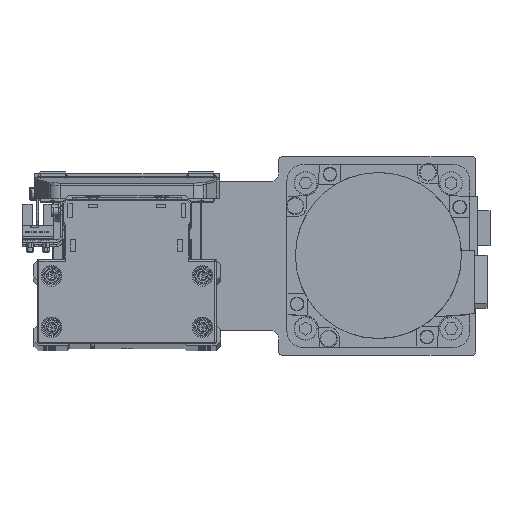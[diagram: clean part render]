
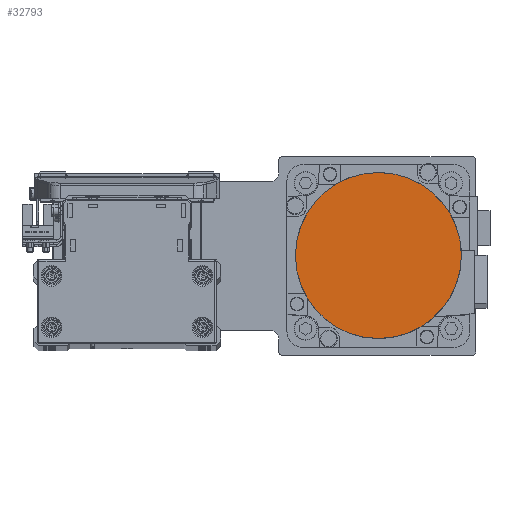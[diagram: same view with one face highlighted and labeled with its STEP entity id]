
A CAD part, top view. The second image highlights one B-rep face of the part: STEP entity #32793.
In plain terms, the highlighted planar face has unit normal (0, 0, 1) as drawn and (0, 0, -1) by its records, which use the part's own axes.
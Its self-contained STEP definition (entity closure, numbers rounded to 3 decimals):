
#2759 = CIRCLE ( 'NONE', #25611, 36.3 ) ;
#5710 = ORIENTED_EDGE ( 'NONE', *, *, #29768, .F. ) ;
#5948 = DIRECTION ( 'NONE',  ( 0., -1., 0. ) ) ;
#6263 = DIRECTION ( 'NONE',  ( 0., 0., 1. ) ) ;
#7689 = CIRCLE ( 'NONE', #30521, 36.3 ) ;
#9493 = CARTESIAN_POINT ( 'NONE',  ( 0., 0., -122.2 ) ) ;
#9739 = CARTESIAN_POINT ( 'NONE',  ( 0., -36.3, -122.2 ) ) ;
#13464 = EDGE_LOOP ( 'NONE', ( #40080, #5710 ) ) ;
#18721 = DIRECTION ( 'NONE',  ( 0., 1., 0. ) ) ;
#20165 = AXIS2_PLACEMENT_3D ( 'NONE', #9493, #21952, #34427 ) ;
#21470 = CARTESIAN_POINT ( 'NONE',  ( 0., 0., -122.2 ) ) ;
#21952 = DIRECTION ( 'NONE',  ( 0., 0., 1. ) ) ;
#22002 = VERTEX_POINT ( 'NONE', #34451 ) ;
#25029 = FACE_OUTER_BOUND ( 'NONE', #13464, .T. ) ;
#25611 = AXIS2_PLACEMENT_3D ( 'NONE', #21470, #33940, #5948 ) ;
#27285 = EDGE_CURVE ( 'NONE', #22002, #34205, #7689, .T. ) ;
#29768 = EDGE_CURVE ( 'NONE', #34205, #22002, #2759, .T. ) ;
#30521 = AXIS2_PLACEMENT_3D ( 'NONE', #34255, #6263, #18721 ) ;
#32793 = ADVANCED_FACE ( 'NONE', ( #25029 ), #37500, .F. ) ;
#33940 = DIRECTION ( 'NONE',  ( 0., 0., 1. ) ) ;
#34205 = VERTEX_POINT ( 'NONE', #9739 ) ;
#34255 = CARTESIAN_POINT ( 'NONE',  ( 0., 0., -122.2 ) ) ;
#34427 = DIRECTION ( 'NONE',  ( 1., 0., 0. ) ) ;
#34451 = CARTESIAN_POINT ( 'NONE',  ( 0., 36.3, -122.2 ) ) ;
#37500 = PLANE ( 'NONE',  #20165 ) ;
#40080 = ORIENTED_EDGE ( 'NONE', *, *, #27285, .F. ) ;
